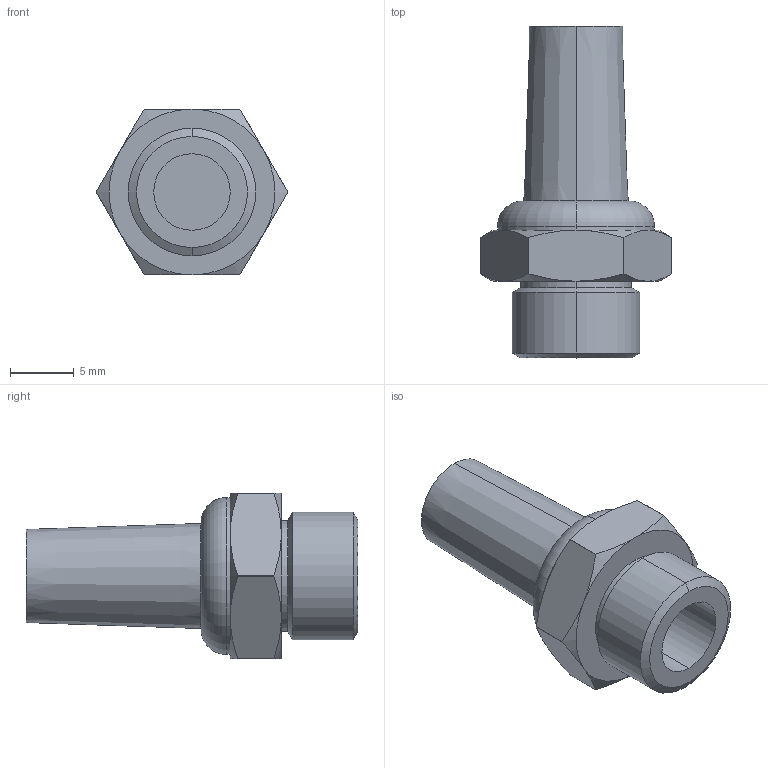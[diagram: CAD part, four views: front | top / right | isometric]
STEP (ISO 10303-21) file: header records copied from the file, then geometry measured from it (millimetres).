
FILE_DESCRIPTION (( 'STEP AP214' ), '1' );
FILE_NAME ('AU_047_0.STEP', '2016-10-11T14:44:21', ( '' ), ( '' ), 'SwSTEP 2.0', 'SolidWorks 2016', '' );
FILE_SCHEMA (( 'AUTOMOTIVE_DESIGN' ));
Length unit declared in the file: millimetre
Products named in the file (1): AU_047_0
Bounding box: 15 x 26 x 13 mm (x, y, z)
Volume: 1771.3 mm3; surface area: 1197.9 mm2
Topology: 1 solids, 1 shells, 47 faces, 102 edges, 60 vertices
Faces by surface type: cone 18, cylinder 16, plane 11, torus 2
Entity records: 1451 total; most frequent: CARTESIAN_POINT 346, DIRECTION 224, ORIENTED_EDGE 204, EDGE_CURVE 102, AXIS2_PLACEMENT_3D 98, VERTEX_POINT 60, EDGE_LOOP 50, CIRCLE 50
